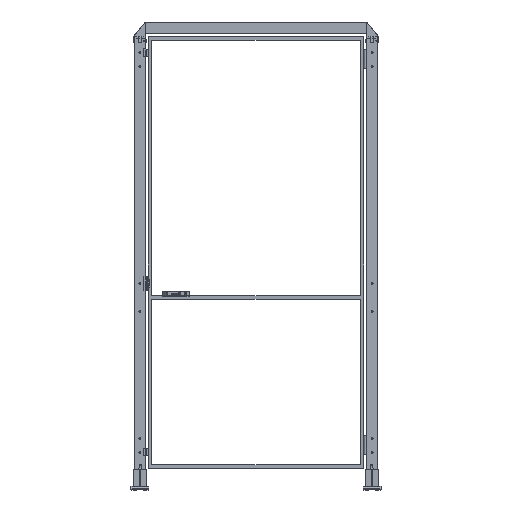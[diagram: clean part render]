
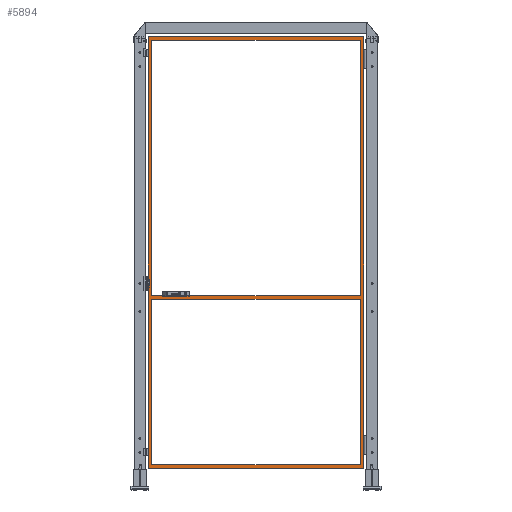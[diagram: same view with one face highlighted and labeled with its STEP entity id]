
A CAD part, top view. The second image highlights one B-rep face of the part: STEP entity #5894.
In plain terms, the highlighted planar face has unit normal (0, 0, 1).
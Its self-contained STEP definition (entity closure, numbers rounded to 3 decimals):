
#5894=ADVANCED_FACE('',(#12068,#12069,#12070),#12071,.F.);
#12068=FACE_BOUND('',#19807,.T.);
#12069=FACE_OUTER_BOUND('',#19808,.T.);
#12070=FACE_BOUND('',#19809,.T.);
#12071=PLANE('',#19810);
#19807=EDGE_LOOP('',(#37257,#37258,#37259,#37260));
#19808=EDGE_LOOP('',(#37261,#37262,#37263,#37264));
#19809=EDGE_LOOP('',(#37265,#37266,#37267,#37268));
#19810=AXIS2_PLACEMENT_3D('',#37269,#37270,#37271);
#37257=ORIENTED_EDGE('',*,*,#44399,.F.);
#37258=ORIENTED_EDGE('',*,*,#44405,.T.);
#37259=ORIENTED_EDGE('',*,*,#44427,.T.);
#37260=ORIENTED_EDGE('',*,*,#44432,.F.);
#37261=ORIENTED_EDGE('',*,*,#44443,.F.);
#37262=ORIENTED_EDGE('',*,*,#44437,.F.);
#37263=ORIENTED_EDGE('',*,*,#44407,.F.);
#37264=ORIENTED_EDGE('',*,*,#44441,.F.);
#37265=ORIENTED_EDGE('',*,*,#44429,.F.);
#37266=ORIENTED_EDGE('',*,*,#44424,.F.);
#37267=ORIENTED_EDGE('',*,*,#44435,.T.);
#37268=ORIENTED_EDGE('',*,*,#44444,.T.);
#37269=CARTESIAN_POINT('',(615.0,130.0,10.0));
#37270=DIRECTION('',(0.,0.0,-1.0));
#37271=DIRECTION('',(-1.0,0.0,0.));
#44399=EDGE_CURVE('',#54881,#54884,#54885,.T.);
#44405=EDGE_CURVE('',#54881,#54892,#54894,.T.);
#44407=EDGE_CURVE('',#54896,#54897,#54898,.T.);
#44424=EDGE_CURVE('',#54924,#54922,#54926,.T.);
#44427=EDGE_CURVE('',#54892,#54928,#54930,.T.);
#44429=EDGE_CURVE('',#54922,#54932,#54933,.T.);
#44432=EDGE_CURVE('',#54884,#54928,#54936,.T.);
#44435=EDGE_CURVE('',#54924,#54938,#54940,.T.);
#44437=EDGE_CURVE('',#54897,#54942,#54943,.T.);
#44441=EDGE_CURVE('',#54946,#54896,#54948,.T.);
#44443=EDGE_CURVE('',#54942,#54946,#54950,.T.);
#44444=EDGE_CURVE('',#54938,#54932,#54951,.T.);
#54881=VERTEX_POINT('',#70715);
#54884=VERTEX_POINT('',#70719);
#54885=LINE('',#70720,#70721);
#54892=VERTEX_POINT('',#70731);
#54894=LINE('',#70734,#70735);
#54896=VERTEX_POINT('',#70737);
#54897=VERTEX_POINT('',#70738);
#54898=LINE('',#70739,#70740);
#54922=VERTEX_POINT('',#70776);
#54924=VERTEX_POINT('',#70779);
#54926=LINE('',#70782,#70783);
#54928=VERTEX_POINT('',#70785);
#54930=LINE('',#70788,#70789);
#54932=VERTEX_POINT('',#70791);
#54933=LINE('',#70792,#70793);
#54936=LINE('',#70797,#70798);
#54938=VERTEX_POINT('',#70800);
#54940=LINE('',#70803,#70804);
#54942=VERTEX_POINT('',#70806);
#54943=LINE('',#70807,#70808);
#54946=VERTEX_POINT('',#70812);
#54948=LINE('',#70815,#70816);
#54950=LINE('',#70818,#70819);
#54951=LINE('',#70820,#70821);
#70715=CARTESIAN_POINT('',(1195.0,2500.0,10.));
#70719=CARTESIAN_POINT('',(35.,2500.0,10.0));
#70720=CARTESIAN_POINT('',(615.0,2500.0,10.0));
#70721=VECTOR('',#78397,1.0);
#70731=CARTESIAN_POINT('',(1195.0,1080.0,10.));
#70734=CARTESIAN_POINT('',(1195.0,1320.0,10.));
#70735=VECTOR('',#78402,1.0);
#70737=CARTESIAN_POINT('',(15.0,120.0,10.0));
#70738=CARTESIAN_POINT('',(15.,2520.0,10.0));
#70739=CARTESIAN_POINT('',(15.0,130.0,10.0));
#70740=VECTOR('',#78403,1.0);
#70776=CARTESIAN_POINT('',(35.,1060.0,10.0));
#70779=CARTESIAN_POINT('',(1195.0,1060.0,10.));
#70782=CARTESIAN_POINT('',(615.0,1060.0,10.0));
#70783=VECTOR('',#78418,1.0);
#70785=CARTESIAN_POINT('',(35.,1080.0,10.0));
#70788=CARTESIAN_POINT('',(615.0,1080.0,10.0));
#70789=VECTOR('',#78420,1.0);
#70791=CARTESIAN_POINT('',(35.0,140.0,10.0));
#70792=CARTESIAN_POINT('',(35.,1320.0,10.0));
#70793=VECTOR('',#78421,1.0);
#70797=CARTESIAN_POINT('',(35.,1320.0,10.0));
#70798=VECTOR('',#78423,1.0);
#70800=CARTESIAN_POINT('',(1195.0,140.0,10.));
#70803=CARTESIAN_POINT('',(1195.0,1320.0,10.));
#70804=VECTOR('',#78425,1.0);
#70806=CARTESIAN_POINT('',(1215.0,2520.0,10.));
#70807=CARTESIAN_POINT('',(25.,2520.0,10.0));
#70808=VECTOR('',#78426,1.0);
#70812=CARTESIAN_POINT('',(1215.0,120.0,10.));
#70815=CARTESIAN_POINT('',(615.0,120.0,10.0));
#70816=VECTOR('',#78429,1.0);
#70818=CARTESIAN_POINT('',(1215.0,1320.0,10.));
#70819=VECTOR('',#78430,1.0);
#70820=CARTESIAN_POINT('',(615.0,140.0,10.0));
#70821=VECTOR('',#78431,1.0);
#78397=DIRECTION('',(-1.0,0.0,0.));
#78402=DIRECTION('',(0.,-1.0,0.));
#78403=DIRECTION('',(0.0,1.0,0.0));
#78418=DIRECTION('',(-1.0,0.0,0.));
#78420=DIRECTION('',(-1.0,0.0,0.));
#78421=DIRECTION('',(0.,-1.0,0.));
#78423=DIRECTION('',(0.,-1.0,0.));
#78425=DIRECTION('',(0.,-1.0,0.));
#78426=DIRECTION('',(1.0,0.,0.));
#78429=DIRECTION('',(-1.0,0.0,0.));
#78430=DIRECTION('',(0.,-1.0,0.));
#78431=DIRECTION('',(-1.0,0.0,0.));
